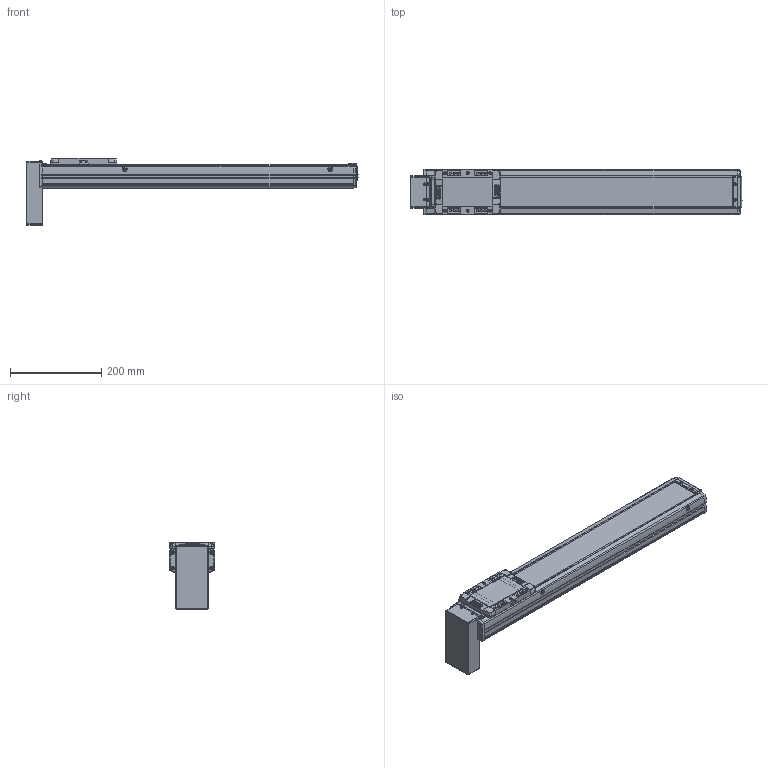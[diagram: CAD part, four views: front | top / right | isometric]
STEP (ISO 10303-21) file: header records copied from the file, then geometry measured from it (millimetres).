
FILE_DESCRIPTION(('STEP AP214'),'1');
FILE_NAME('Z:/Web/3D/SAN100/SAN100 양산용 (STEP)/SAN100ㅁㅁ-500PB.stp','2013-04-26T02:18:21',(' '),(' '),'Spatial InterOp 3D',' ',' ');
FILE_SCHEMA(('automotive_design'));
Length unit declared in the file: millimetre
Products named in the file (37): SUS COVER; SFX-SAN100; RRCV-SAN100; 스크루 : Round - M4.0 x 10.0; M3.0 x 6.0; 스크루 : Round - M3.0 x 6.0; FRBL-SAN100; SLBL-SAN100; SLCV-SAN100; 스크루 : Countersunk - M3.0 x 6.0; BASE; 스크루 : Round - M5.0 x 6.0; BTCV-SAN100; FRCV-SAN100
Bounding box: 726.5 x 100 x 148.36 mm (x, y, z)
Volume: 2251193.8 mm3; surface area: 521262.2 mm2
Topology: 37 solids, 40 shells, 2044 faces, 5306 edges, 3413 vertices
Faces by surface type: plane 1013, cylinder 747, cone 190, sphere 52, torus 30, bspline 12
Entity records: 80256 total; most frequent: CARTESIAN_POINT 11910, DIRECTION 11263, ORIENTED_EDGE 10440, EDGE_CURVE 5220, AXIS2_PLACEMENT_3D 4067, VERTEX_POINT 3413, LINE 3129, VECTOR 3129
